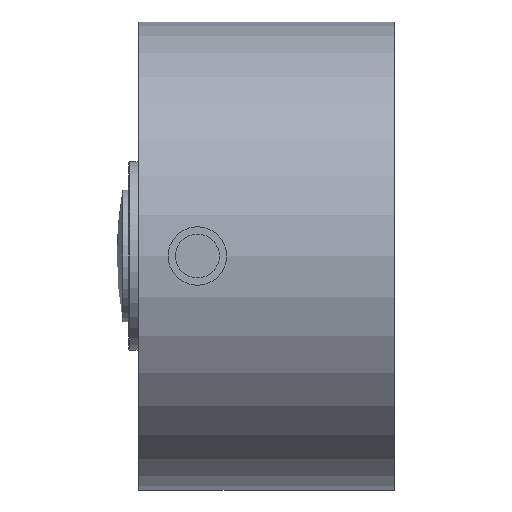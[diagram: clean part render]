
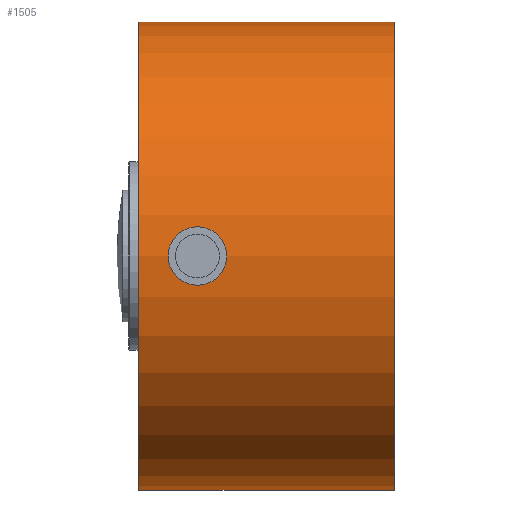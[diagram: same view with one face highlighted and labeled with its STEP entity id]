
A CAD part, left-side view. The second image highlights one B-rep face of the part: STEP entity #1505.
In plain terms, the highlighted cylindrical face has radius 101.6 mm (diameter 203.2 mm), a partial arc.
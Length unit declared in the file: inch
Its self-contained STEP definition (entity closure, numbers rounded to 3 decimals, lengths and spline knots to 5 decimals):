
#7 = CIRCLE ( 'NONE', #1410, 4. ) ;
#76 = DIRECTION ( 'NONE',  ( 0., -1., 0. ) ) ;
#98 = CARTESIAN_POINT ( 'NONE',  ( 0., 4.392, 4. ) ) ;
#106 = CARTESIAN_POINT ( 'NONE',  ( 0., 0.015, 0. ) ) ;
#117 = DIRECTION ( 'NONE',  ( 0., 0., 1. ) ) ;
#127 = CARTESIAN_POINT ( 'NONE',  ( 0., 4.377, 0. ) ) ;
#138 = DIRECTION ( 'NONE',  ( 0., -1., 0. ) ) ;
#248 = CARTESIAN_POINT ( 'NONE',  ( 0., 4.392, 0. ) ) ;
#252 = DIRECTION ( 'NONE',  ( 0., -1., 0. ) ) ;
#256 = DIRECTION ( 'NONE',  ( 0., 0., -1. ) ) ;
#359 = AXIS2_PLACEMENT_3D ( 'NONE', #248, #252, #256 ) ;
#360 = VECTOR ( 'NONE', #76, 39.37008 ) ;
#391 = LINE ( 'NONE', #98, #360 ) ;
#418 = ORIENTED_EDGE ( 'NONE', *, *, #1320, .F. ) ;
#443 = ORIENTED_EDGE ( 'NONE', *, *, #1352, .T. ) ;
#461 = ORIENTED_EDGE ( 'NONE', *, *, #1334, .T. ) ;
#486 = ORIENTED_EDGE ( 'NONE', *, *, #1290, .T. ) ;
#658 = CIRCLE ( 'NONE', #1414, 4. ) ;
#679 = DIRECTION ( 'NONE',  ( 0., 1., 0. ) ) ;
#680 = DIRECTION ( 'NONE',  ( 0., 0., 1. ) ) ;
#727 = CARTESIAN_POINT ( 'NONE',  ( 0., 4.392, -4. ) ) ;
#729 = DIRECTION ( 'NONE',  ( 0., -1., 0. ) ) ;
#877 = EDGE_LOOP ( 'NONE', ( #418, #486, #443, #461 ) ) ;
#907 = LINE ( 'NONE', #727, #939 ) ;
#939 = VECTOR ( 'NONE', #729, 39.37008 ) ;
#1020 = FACE_OUTER_BOUND ( 'NONE', #877, .T. ) ;
#1021 = CYLINDRICAL_SURFACE ( 'NONE', #359, 4. ) ;
#1042 = VERTEX_POINT ( 'NONE', #1112 ) ;
#1044 = VERTEX_POINT ( 'NONE', #1098 ) ;
#1047 = VERTEX_POINT ( 'NONE', #1113 ) ;
#1081 = VERTEX_POINT ( 'NONE', #1203 ) ;
#1098 = CARTESIAN_POINT ( 'NONE',  ( 0., 0.015, -4. ) ) ;
#1112 = CARTESIAN_POINT ( 'NONE',  ( 0., 4.377, 4. ) ) ;
#1113 = CARTESIAN_POINT ( 'NONE',  ( 0., 4.377, -4. ) ) ;
#1203 = CARTESIAN_POINT ( 'NONE',  ( 0., 0.015, 4. ) ) ;
#1290 = EDGE_CURVE ( 'NONE', #1042, #1047, #7, .T. ) ;
#1320 = EDGE_CURVE ( 'NONE', #1042, #1081, #391, .T. ) ;
#1334 = EDGE_CURVE ( 'NONE', #1044, #1081, #658, .T. ) ;
#1352 = EDGE_CURVE ( 'NONE', #1047, #1044, #907, .T. ) ;
#1410 = AXIS2_PLACEMENT_3D ( 'NONE', #127, #138, #117 ) ;
#1414 = AXIS2_PLACEMENT_3D ( 'NONE', #106, #679, #680 ) ;
#1505 = ADVANCED_FACE ( 'NONE', ( #1020 ), #1021, .T. ) ;
